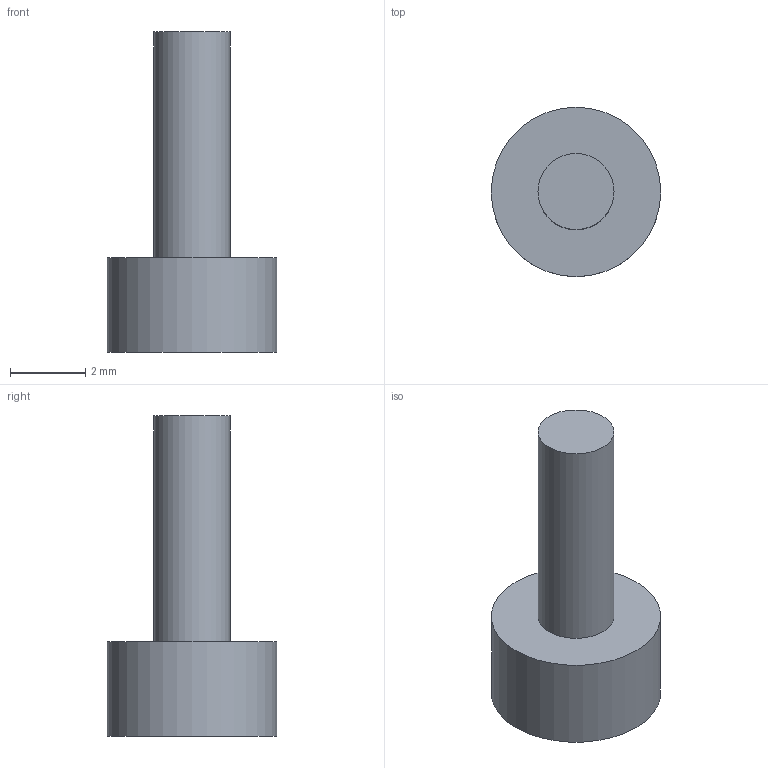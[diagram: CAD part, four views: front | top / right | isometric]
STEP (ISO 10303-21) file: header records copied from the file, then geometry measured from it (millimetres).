
FILE_DESCRIPTION(('Open CASCADE Model'),'2;1');
FILE_NAME('Open CASCADE Shape Model','2026-09-24T17:43:03',('Author'),( 'Open CASCADE'),'Open CASCADE STEP processor 7.8','Open CASCADE 7.8' ,'Unknown');
FILE_SCHEMA(('AUTOMOTIVE_DESIGN { 1 0 10303 214 1 1 1 1 }'));
Length unit declared in the file: millimetre
Products named in the file (1): Open CASCADE STEP translator 7.8 53
Bounding box: 4.5 x 4.5 x 8.5 mm (x, y, z)
Volume: 54.8 mm3; surface area: 113.5 mm2
Topology: 1 solids, 1 shells, 12 faces, 24 edges, 16 vertices
Faces by surface type: plane 10, cylinder 2
Full cylindrical faces by diameter (mm): 2.02 x1, 4.5 x1
Entity records: 634 total; most frequent: DIRECTION 102, CARTESIAN_POINT 101, LINE 64, VECTOR 64, ORIENTED_EDGE 48, PCURVE 48, DEFINITIONAL_REPRESENTATION 48, EDGE_CURVE 24
